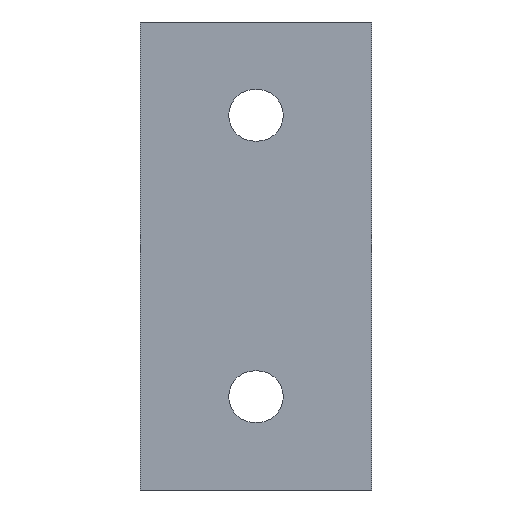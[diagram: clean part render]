
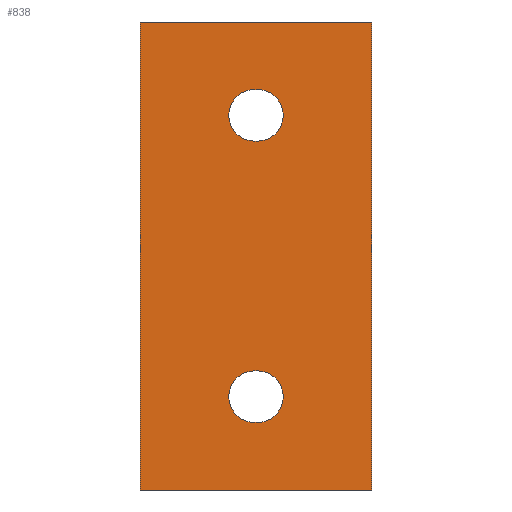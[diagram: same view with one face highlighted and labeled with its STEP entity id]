
A CAD part, left-side view. The second image highlights one B-rep face of the part: STEP entity #838.
In plain terms, the highlighted planar face has unit normal (-1, 0, 0).
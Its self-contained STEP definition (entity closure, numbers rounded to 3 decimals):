
#1 = VECTOR ( 'NONE', #578, 1000. ) ;
#22 = CARTESIAN_POINT ( 'NONE',  ( 0., 12.5, 17.75 ) ) ;
#35 = LINE ( 'NONE', #363, #690 ) ;
#36 = AXIS2_PLACEMENT_3D ( 'NONE', #868, #1140, #79 ) ;
#39 = VECTOR ( 'NONE', #239, 1000. ) ;
#69 = VERTEX_POINT ( 'NONE', #715 ) ;
#79 = DIRECTION ( 'NONE',  ( 0., 0., -1. ) ) ;
#101 = EDGE_CURVE ( 'NONE', #325, #264, #454, .T. ) ;
#120 = CARTESIAN_POINT ( 'NONE',  ( 0., 12.2, 17.75 ) ) ;
#121 = EDGE_CURVE ( 'NONE', #122, #325, #275, .T. ) ;
#122 = VERTEX_POINT ( 'NONE', #989 ) ;
#139 = VERTEX_POINT ( 'NONE', #898 ) ;
#140 = EDGE_CURVE ( 'NONE', #1063, #703, #35, .T. ) ;
#158 = EDGE_CURVE ( 'NONE', #447, #139, #786, .T. ) ;
#164 = VERTEX_POINT ( 'NONE', #905 ) ;
#174 = FACE_BOUND ( 'NONE', #1002, .T. ) ;
#191 = CARTESIAN_POINT ( 'NONE',  ( 0., 12.5, 15. ) ) ;
#196 = CARTESIAN_POINT ( 'NONE',  ( 0., 12.5, -15. ) ) ;
#205 = VERTEX_POINT ( 'NONE', #120 ) ;
#209 = ORIENTED_EDGE ( 'NONE', *, *, #140, .T. ) ;
#225 = EDGE_LOOP ( 'NONE', ( #856, #346, #242, #209 ) ) ;
#227 = DIRECTION ( 'NONE',  ( 0., 0., -1. ) ) ;
#229 = CARTESIAN_POINT ( 'NONE',  ( 0., 12.5, 12.25 ) ) ;
#239 = DIRECTION ( 'NONE',  ( 0., -1., 0. ) ) ;
#242 = ORIENTED_EDGE ( 'NONE', *, *, #707, .F. ) ;
#244 = PLANE ( 'NONE',  #36 ) ;
#264 = VERTEX_POINT ( 'NONE', #484 ) ;
#265 = DIRECTION ( 'NONE',  ( 0., -1., 0. ) ) ;
#270 = LINE ( 'NONE', #22, #804 ) ;
#273 = AXIS2_PLACEMENT_3D ( 'NONE', #750, #560, #1109 ) ;
#275 = LINE ( 'NONE', #812, #1104 ) ;
#286 = EDGE_CURVE ( 'NONE', #69, #551, #833, .T. ) ;
#317 = CARTESIAN_POINT ( 'NONE',  ( 0., 24.7, 24.95 ) ) ;
#323 = FACE_BOUND ( 'NONE', #508, .T. ) ;
#325 = VERTEX_POINT ( 'NONE', #229 ) ;
#345 = EDGE_CURVE ( 'NONE', #164, #482, #582, .T. ) ;
#346 = ORIENTED_EDGE ( 'NONE', *, *, #286, .F. ) ;
#358 = ORIENTED_EDGE ( 'NONE', *, *, #345, .T. ) ;
#363 = CARTESIAN_POINT ( 'NONE',  ( 0., 24.7, 24.95 ) ) ;
#399 = ORIENTED_EDGE ( 'NONE', *, *, #158, .T. ) ;
#400 = DIRECTION ( 'NONE',  ( 0., 1., 0. ) ) ;
#407 = CARTESIAN_POINT ( 'NONE',  ( 0., 0., 24.95 ) ) ;
#408 = ORIENTED_EDGE ( 'NONE', *, *, #1011, .T. ) ;
#426 = FACE_OUTER_BOUND ( 'NONE', #225, .T. ) ;
#432 = EDGE_CURVE ( 'NONE', #139, #164, #774, .T. ) ;
#447 = VERTEX_POINT ( 'NONE', #523 ) ;
#454 = CIRCLE ( 'NONE', #729, 2.75 ) ;
#480 = CARTESIAN_POINT ( 'NONE',  ( 0., 0., 24.95 ) ) ;
#482 = VERTEX_POINT ( 'NONE', #779 ) ;
#484 = CARTESIAN_POINT ( 'NONE',  ( 0., 12.5, 17.75 ) ) ;
#488 = VECTOR ( 'NONE', #652, 1000. ) ;
#490 = CARTESIAN_POINT ( 'NONE',  ( 0., 24.7, -24.95 ) ) ;
#508 = EDGE_LOOP ( 'NONE', ( #776, #661, #408, #852 ) ) ;
#523 = CARTESIAN_POINT ( 'NONE',  ( 0., 12.5, -17.75 ) ) ;
#527 = CIRCLE ( 'NONE', #672, 2.75 ) ;
#536 = DIRECTION ( 'NONE',  ( 0., 0., -1. ) ) ;
#551 = VERTEX_POINT ( 'NONE', #1061 ) ;
#560 = DIRECTION ( 'NONE',  ( 1., 0., 0. ) ) ;
#578 = DIRECTION ( 'NONE',  ( 0., 0., -1. ) ) ;
#582 = CIRCLE ( 'NONE', #273, 2.75 ) ;
#590 = DIRECTION ( 'NONE',  ( 0., -1., 0. ) ) ;
#641 = DIRECTION ( 'NONE',  ( 1., 0., 0. ) ) ;
#652 = DIRECTION ( 'NONE',  ( 0., -1., 0. ) ) ;
#661 = ORIENTED_EDGE ( 'NONE', *, *, #101, .T. ) ;
#672 = AXIS2_PLACEMENT_3D ( 'NONE', #907, #641, #227 ) ;
#682 = CARTESIAN_POINT ( 'NONE',  ( 0., 0., -24.95 ) ) ;
#690 = VECTOR ( 'NONE', #733, 1000. ) ;
#695 = LINE ( 'NONE', #682, #1083 ) ;
#703 = VERTEX_POINT ( 'NONE', #490 ) ;
#706 = DIRECTION ( 'NONE',  ( 0., 1., 0. ) ) ;
#707 = EDGE_CURVE ( 'NONE', #1063, #69, #1107, .T. ) ;
#715 = CARTESIAN_POINT ( 'NONE',  ( 0., 0., 24.95 ) ) ;
#720 = DIRECTION ( 'NONE',  ( 0., 0., -1. ) ) ;
#729 = AXIS2_PLACEMENT_3D ( 'NONE', #191, #803, #720 ) ;
#733 = DIRECTION ( 'NONE',  ( 0., 0., -1. ) ) ;
#739 = EDGE_CURVE ( 'NONE', #482, #447, #940, .T. ) ;
#750 = CARTESIAN_POINT ( 'NONE',  ( 0., 12.2, -15. ) ) ;
#774 = LINE ( 'NONE', #1131, #39 ) ;
#776 = ORIENTED_EDGE ( 'NONE', *, *, #121, .T. ) ;
#779 = CARTESIAN_POINT ( 'NONE',  ( 0., 12.2, -17.75 ) ) ;
#786 = CIRCLE ( 'NONE', #941, 2.75 ) ;
#803 = DIRECTION ( 'NONE',  ( 1., 0., 0. ) ) ;
#804 = VECTOR ( 'NONE', #265, 1000. ) ;
#812 = CARTESIAN_POINT ( 'NONE',  ( 0., 12.5, 12.25 ) ) ;
#833 = LINE ( 'NONE', #407, #1 ) ;
#838 = ADVANCED_FACE ( 'NONE', ( #323, #174, #426 ), #244, .F. ) ;
#852 = ORIENTED_EDGE ( 'NONE', *, *, #1135, .T. ) ;
#856 = ORIENTED_EDGE ( 'NONE', *, *, #890, .T. ) ;
#868 = CARTESIAN_POINT ( 'NONE',  ( 0., 0., 24.95 ) ) ;
#878 = ORIENTED_EDGE ( 'NONE', *, *, #739, .T. ) ;
#890 = EDGE_CURVE ( 'NONE', #703, #551, #695, .T. ) ;
#898 = CARTESIAN_POINT ( 'NONE',  ( 0., 12.5, -12.25 ) ) ;
#903 = VECTOR ( 'NONE', #400, 1000. ) ;
#905 = CARTESIAN_POINT ( 'NONE',  ( 0., 12.2, -12.25 ) ) ;
#907 = CARTESIAN_POINT ( 'NONE',  ( 0., 12.2, 15. ) ) ;
#922 = CARTESIAN_POINT ( 'NONE',  ( 0., 12.5, -17.75 ) ) ;
#940 = LINE ( 'NONE', #922, #903 ) ;
#941 = AXIS2_PLACEMENT_3D ( 'NONE', #196, #1077, #536 ) ;
#989 = CARTESIAN_POINT ( 'NONE',  ( 0., 12.2, 12.25 ) ) ;
#1002 = EDGE_LOOP ( 'NONE', ( #878, #399, #1115, #358 ) ) ;
#1011 = EDGE_CURVE ( 'NONE', #264, #205, #270, .T. ) ;
#1061 = CARTESIAN_POINT ( 'NONE',  ( 0., 0., -24.95 ) ) ;
#1063 = VERTEX_POINT ( 'NONE', #317 ) ;
#1077 = DIRECTION ( 'NONE',  ( 1., 0., 0. ) ) ;
#1083 = VECTOR ( 'NONE', #590, 1000. ) ;
#1104 = VECTOR ( 'NONE', #706, 1000. ) ;
#1107 = LINE ( 'NONE', #480, #488 ) ;
#1109 = DIRECTION ( 'NONE',  ( 0., 0., -1. ) ) ;
#1115 = ORIENTED_EDGE ( 'NONE', *, *, #432, .T. ) ;
#1131 = CARTESIAN_POINT ( 'NONE',  ( 0., 12.5, -12.25 ) ) ;
#1135 = EDGE_CURVE ( 'NONE', #205, #122, #527, .T. ) ;
#1140 = DIRECTION ( 'NONE',  ( 1., 0., 0. ) ) ;
